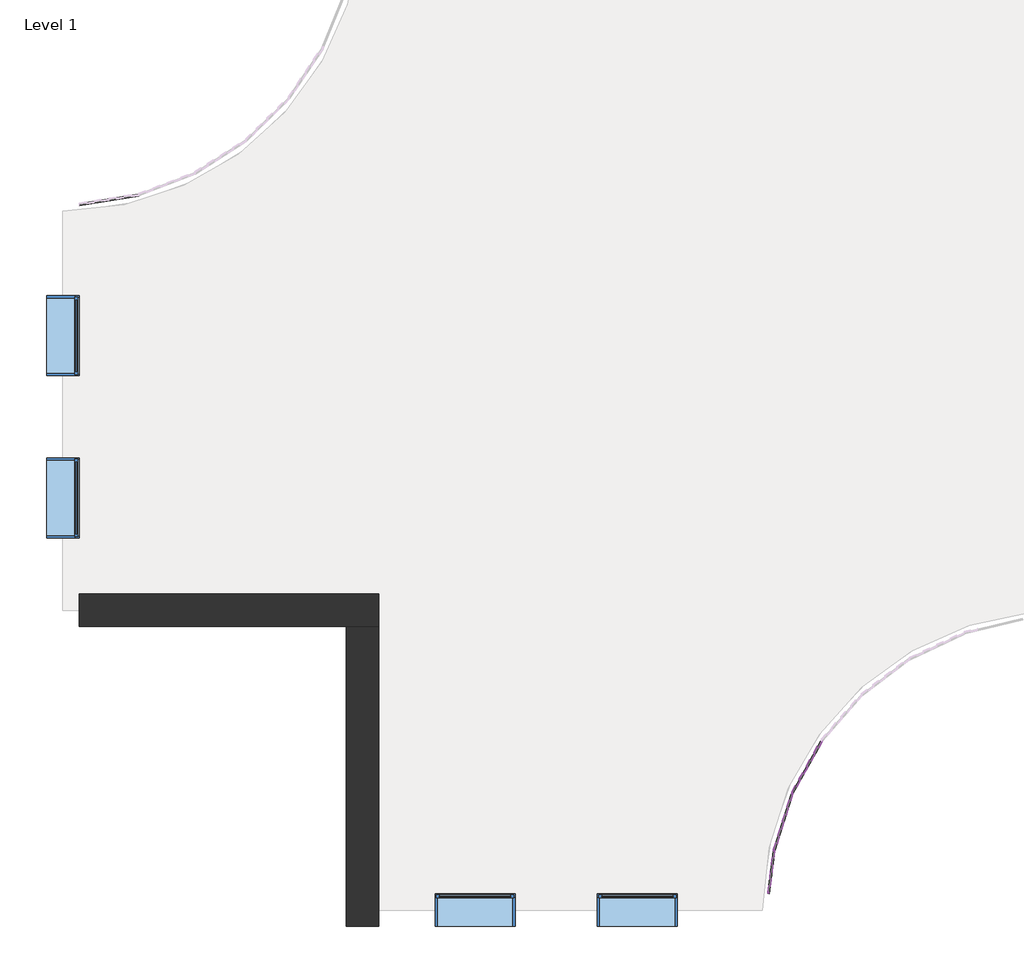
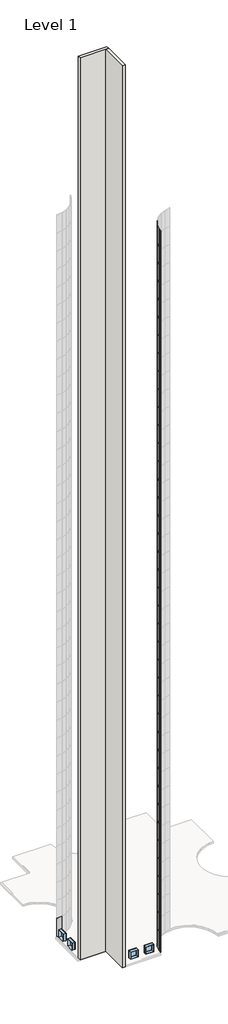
# One storey, part 1 of 19: 121 plates, 4 windows, 2 walls.
"""IFC4 building model written with IfcOpenShell, lengths in millimetres."""

from ifc_helpers import new_model, si_unit, origin, place, context, project, spatial, faceted_brep, transform, mapped, element, save
from components import system_panel_glazed_d77d1ebf, system_panel_glazed_769dbdec, window_d0035ecf, window_d434eb62

model = new_model("IFC4")

# Units and contexts
model_context = context("Model", 3, world=origin())
ifc_project = project(units=[si_unit("LENGTHUNIT", "METRE", prefix="MILLI")], contexts=[model_context])

# Site, building, storey
site = spatial("IfcSite", under=ifc_project)
building = spatial("IfcBuilding", under=site)
storey = spatial("IfcBuildingStorey", under=building, Name="Level 1", Elevation=0.0)

# Plates
placement = place(None, origin())
system_panel_glazed_shape = system_panel_glazed_d77d1ebf(model_context)
element("IfcPlate", 1, ObjectType="System Panel : Glazed", at=placement, inside=storey, context=model_context, shape_type="MappedRepresentation", body=[
    mapped(system_panel_glazed_shape, transform((-341.6843115, -19264.3431106, 0.0), x_axis=(-0.48908047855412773, -0.8722386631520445, 0.0), y_axis=(0.8722386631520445, -0.48908047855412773, 0.0), z_axis=(0.0, 0.0, 1.0))),
])
element("IfcPlate", 2, ObjectType="System Panel : Glazed", at=placement, inside=storey, context=model_context, shape_type="MappedRepresentation", body=[
    mapped(system_panel_glazed_shape, transform((-702.6313416, -20099.2151599, 0.0), x_axis=(-0.30039246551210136, -0.953815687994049, 0.0), y_axis=(0.953815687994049, -0.30039246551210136, 0.0), z_axis=(0.0, 0.0, 1.0))),
])
element("IfcPlate", 3, ObjectType="System Panel : Glazed", at=placement, inside=storey, context=model_context, shape_type="MappedRepresentation", body=[
    mapped(system_panel_glazed_shape, transform((-341.6843115, -19264.3431106, 3048.0), x_axis=(-0.48908047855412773, -0.8722386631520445, 0.0), y_axis=(0.8722386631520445, -0.48908047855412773, 0.0), z_axis=(0.0, 0.0, 1.0))),
])
element("IfcPlate", 4, ObjectType="System Panel : Glazed", at=placement, inside=storey, context=model_context, shape_type="MappedRepresentation", body=[
    mapped(system_panel_glazed_shape, transform((-702.6313416, -20099.2151599, 3048.0), x_axis=(-0.30039246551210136, -0.953815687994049, 0.0), y_axis=(0.953815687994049, -0.30039246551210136, 0.0), z_axis=(0.0, 0.0, 1.0))),
])
element("IfcPlate", 5, ObjectType="System Panel : Glazed", at=placement, inside=storey, context=model_context, shape_type="MappedRepresentation", body=[
    mapped(system_panel_glazed_shape, transform((-341.6843115, -19264.3431106, 6096.0), x_axis=(-0.48908047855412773, -0.8722386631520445, 0.0), y_axis=(0.8722386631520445, -0.48908047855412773, 0.0), z_axis=(0.0, 0.0, 1.0))),
])
element("IfcPlate", 6, ObjectType="System Panel : Glazed", at=placement, inside=storey, context=model_context, shape_type="MappedRepresentation", body=[
    mapped(system_panel_glazed_shape, transform((-702.6313416, -20099.2151599, 6096.0), x_axis=(-0.30039246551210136, -0.953815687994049, 0.0), y_axis=(0.953815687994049, -0.30039246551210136, 0.0), z_axis=(0.0, 0.0, 1.0))),
])
element("IfcPlate", 7, ObjectType="System Panel : Glazed", at=placement, inside=storey, context=model_context, shape_type="MappedRepresentation", body=[
    mapped(system_panel_glazed_shape, transform((-341.6843115, -19264.3431106, 9144.0), x_axis=(-0.48908047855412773, -0.8722386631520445, 0.0), y_axis=(0.8722386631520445, -0.48908047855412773, 0.0), z_axis=(0.0, 0.0, 1.0))),
])
element("IfcPlate", 8, ObjectType="System Panel : Glazed", at=placement, inside=storey, context=model_context, shape_type="MappedRepresentation", body=[
    mapped(system_panel_glazed_shape, transform((-702.6313416, -20099.2151599, 9144.0), x_axis=(-0.30039246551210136, -0.953815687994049, 0.0), y_axis=(0.953815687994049, -0.30039246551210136, 0.0), z_axis=(0.0, 0.0, 1.0))),
])
element("IfcPlate", 9, ObjectType="System Panel : Glazed", at=placement, inside=storey, context=model_context, shape_type="MappedRepresentation", body=[
    mapped(system_panel_glazed_shape, transform((-341.6843115, -19264.3431106, 12192.0), x_axis=(-0.48908047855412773, -0.8722386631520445, 0.0), y_axis=(0.8722386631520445, -0.48908047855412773, 0.0), z_axis=(0.0, 0.0, 1.0))),
])
element("IfcPlate", 10, ObjectType="System Panel : Glazed", at=placement, inside=storey, context=model_context, shape_type="MappedRepresentation", body=[
    mapped(system_panel_glazed_shape, transform((-702.6313416, -20099.2151599, 12192.0), x_axis=(-0.30039246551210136, -0.953815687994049, 0.0), y_axis=(0.953815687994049, -0.30039246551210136, 0.0), z_axis=(0.0, 0.0, 1.0))),
])
element("IfcPlate", 11, ObjectType="System Panel : Glazed", at=placement, inside=storey, context=model_context, shape_type="MappedRepresentation", body=[
    mapped(system_panel_glazed_shape, transform((-341.6843115, -19264.3431106, 15240.0), x_axis=(-0.48908047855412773, -0.8722386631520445, 0.0), y_axis=(0.8722386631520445, -0.48908047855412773, 0.0), z_axis=(0.0, 0.0, 1.0))),
])
element("IfcPlate", 12, ObjectType="System Panel : Glazed", at=placement, inside=storey, context=model_context, shape_type="MappedRepresentation", body=[
    mapped(system_panel_glazed_shape, transform((-702.6313416, -20099.2151599, 15240.0), x_axis=(-0.30039246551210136, -0.953815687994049, 0.0), y_axis=(0.953815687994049, -0.30039246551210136, 0.0), z_axis=(0.0, 0.0, 1.0))),
])
element("IfcPlate", 13, ObjectType="System Panel : Glazed", at=placement, inside=storey, context=model_context, shape_type="MappedRepresentation", body=[
    mapped(system_panel_glazed_shape, transform((-341.6843115, -19264.3431106, 18288.0), x_axis=(-0.48908047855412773, -0.8722386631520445, 0.0), y_axis=(0.8722386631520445, -0.48908047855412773, 0.0), z_axis=(0.0, 0.0, 1.0))),
])
element("IfcPlate", 14, ObjectType="System Panel : Glazed", at=placement, inside=storey, context=model_context, shape_type="MappedRepresentation", body=[
    mapped(system_panel_glazed_shape, transform((-702.6313416, -20099.2151599, 18288.0), x_axis=(-0.30039246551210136, -0.953815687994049, 0.0), y_axis=(0.953815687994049, -0.30039246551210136, 0.0), z_axis=(0.0, 0.0, 1.0))),
])
element("IfcPlate", 15, ObjectType="System Panel : Glazed", at=placement, inside=storey, context=model_context, shape_type="MappedRepresentation", body=[
    mapped(system_panel_glazed_shape, transform((-341.6843115, -19264.3431106, 21336.0), x_axis=(-0.48908047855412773, -0.8722386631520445, 0.0), y_axis=(0.8722386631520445, -0.48908047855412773, 0.0), z_axis=(0.0, 0.0, 1.0))),
])
element("IfcPlate", 16, ObjectType="System Panel : Glazed", at=placement, inside=storey, context=model_context, shape_type="MappedRepresentation", body=[
    mapped(system_panel_glazed_shape, transform((-702.6313416, -20099.2151599, 21336.0), x_axis=(-0.30039246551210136, -0.953815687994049, 0.0), y_axis=(0.953815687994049, -0.30039246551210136, 0.0), z_axis=(0.0, 0.0, 1.0))),
])
element("IfcPlate", 17, ObjectType="System Panel : Glazed", at=placement, inside=storey, context=model_context, shape_type="MappedRepresentation", body=[
    mapped(system_panel_glazed_shape, transform((-341.6843115, -19264.3431106, 24384.0), x_axis=(-0.48908047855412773, -0.8722386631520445, 0.0), y_axis=(0.8722386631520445, -0.48908047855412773, 0.0), z_axis=(0.0, 0.0, 1.0))),
])
element("IfcPlate", 18, ObjectType="System Panel : Glazed", at=placement, inside=storey, context=model_context, shape_type="MappedRepresentation", body=[
    mapped(system_panel_glazed_shape, transform((-702.6313416, -20099.2151599, 24384.0), x_axis=(-0.30039246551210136, -0.953815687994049, 0.0), y_axis=(0.953815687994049, -0.30039246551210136, 0.0), z_axis=(0.0, 0.0, 1.0))),
])
element("IfcPlate", 19, ObjectType="System Panel : Glazed", at=placement, inside=storey, context=model_context, shape_type="MappedRepresentation", body=[
    mapped(system_panel_glazed_shape, transform((-341.6843115, -19264.3431106, 27432.0), x_axis=(-0.48908047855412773, -0.8722386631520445, 0.0), y_axis=(0.8722386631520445, -0.48908047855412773, 0.0), z_axis=(0.0, 0.0, 1.0))),
])
element("IfcPlate", 20, ObjectType="System Panel : Glazed", at=placement, inside=storey, context=model_context, shape_type="MappedRepresentation", body=[
    mapped(system_panel_glazed_shape, transform((-702.6313416, -20099.2151599, 27432.0), x_axis=(-0.30039246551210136, -0.953815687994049, 0.0), y_axis=(0.953815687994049, -0.30039246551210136, 0.0), z_axis=(0.0, 0.0, 1.0))),
])
element("IfcPlate", 21, ObjectType="System Panel : Glazed", at=placement, inside=storey, context=model_context, shape_type="MappedRepresentation", body=[
    mapped(system_panel_glazed_shape, transform((-341.6843115, -19264.3431106, 30480.0), x_axis=(-0.48908047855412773, -0.8722386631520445, 0.0), y_axis=(0.8722386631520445, -0.48908047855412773, 0.0), z_axis=(0.0, 0.0, 1.0))),
])
element("IfcPlate", 22, ObjectType="System Panel : Glazed", at=placement, inside=storey, context=model_context, shape_type="MappedRepresentation", body=[
    mapped(system_panel_glazed_shape, transform((-702.6313416, -20099.2151599, 30480.0), x_axis=(-0.30039246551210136, -0.953815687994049, 0.0), y_axis=(0.953815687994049, -0.30039246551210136, 0.0), z_axis=(0.0, 0.0, 1.0))),
])
element("IfcPlate", 23, ObjectType="System Panel : Glazed", at=placement, inside=storey, context=model_context, shape_type="MappedRepresentation", body=[
    mapped(system_panel_glazed_shape, transform((-341.6843115, -19264.3431106, 33528.0), x_axis=(-0.48908047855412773, -0.8722386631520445, 0.0), y_axis=(0.8722386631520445, -0.48908047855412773, 0.0), z_axis=(0.0, 0.0, 1.0))),
])
element("IfcPlate", 24, ObjectType="System Panel : Glazed", at=placement, inside=storey, context=model_context, shape_type="MappedRepresentation", body=[
    mapped(system_panel_glazed_shape, transform((-702.6313416, -20099.2151599, 33528.0), x_axis=(-0.30039246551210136, -0.953815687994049, 0.0), y_axis=(0.953815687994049, -0.30039246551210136, 0.0), z_axis=(0.0, 0.0, 1.0))),
])
element("IfcPlate", 25, ObjectType="System Panel : Glazed", at=placement, inside=storey, context=model_context, shape_type="MappedRepresentation", body=[
    mapped(system_panel_glazed_shape, transform((-341.6843115, -19264.3431106, 36576.0), x_axis=(-0.48908047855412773, -0.8722386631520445, 0.0), y_axis=(0.8722386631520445, -0.48908047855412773, 0.0), z_axis=(0.0, 0.0, 1.0))),
])
element("IfcPlate", 26, ObjectType="System Panel : Glazed", at=placement, inside=storey, context=model_context, shape_type="MappedRepresentation", body=[
    mapped(system_panel_glazed_shape, transform((-702.6313416, -20099.2151599, 36576.0), x_axis=(-0.30039246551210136, -0.953815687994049, 0.0), y_axis=(0.953815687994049, -0.30039246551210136, 0.0), z_axis=(0.0, 0.0, 1.0))),
])
element("IfcPlate", 27, ObjectType="System Panel : Glazed", at=placement, inside=storey, context=model_context, shape_type="MappedRepresentation", body=[
    mapped(system_panel_glazed_shape, transform((-341.6843115, -19264.3431106, 39624.0), x_axis=(-0.48908047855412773, -0.8722386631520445, 0.0), y_axis=(0.8722386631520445, -0.48908047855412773, 0.0), z_axis=(0.0, 0.0, 1.0))),
])
element("IfcPlate", 28, ObjectType="System Panel : Glazed", at=placement, inside=storey, context=model_context, shape_type="MappedRepresentation", body=[
    mapped(system_panel_glazed_shape, transform((-702.6313416, -20099.2151599, 39624.0), x_axis=(-0.30039246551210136, -0.953815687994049, 0.0), y_axis=(0.953815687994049, -0.30039246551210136, 0.0), z_axis=(0.0, 0.0, 1.0))),
])
element("IfcPlate", 29, ObjectType="System Panel : Glazed", at=placement, inside=storey, context=model_context, shape_type="MappedRepresentation", body=[
    mapped(system_panel_glazed_shape, transform((-341.6843115, -19264.3431106, 42672.0), x_axis=(-0.48908047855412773, -0.8722386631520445, 0.0), y_axis=(0.8722386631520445, -0.48908047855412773, 0.0), z_axis=(0.0, 0.0, 1.0))),
])
element("IfcPlate", 30, ObjectType="System Panel : Glazed", at=placement, inside=storey, context=model_context, shape_type="MappedRepresentation", body=[
    mapped(system_panel_glazed_shape, transform((-702.6313416, -20099.2151599, 42672.0), x_axis=(-0.30039246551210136, -0.953815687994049, 0.0), y_axis=(0.953815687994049, -0.30039246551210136, 0.0), z_axis=(0.0, 0.0, 1.0))),
])
element("IfcPlate", 31, ObjectType="System Panel : Glazed", at=placement, inside=storey, context=model_context, shape_type="MappedRepresentation", body=[
    mapped(system_panel_glazed_shape, transform((-341.6843115, -19264.3431106, 45720.0), x_axis=(-0.48908047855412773, -0.8722386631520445, 0.0), y_axis=(0.8722386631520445, -0.48908047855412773, 0.0), z_axis=(0.0, 0.0, 1.0))),
])
element("IfcPlate", 32, ObjectType="System Panel : Glazed", at=placement, inside=storey, context=model_context, shape_type="MappedRepresentation", body=[
    mapped(system_panel_glazed_shape, transform((-702.6313416, -20099.2151599, 45720.0), x_axis=(-0.30039246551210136, -0.953815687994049, 0.0), y_axis=(0.953815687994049, -0.30039246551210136, 0.0), z_axis=(0.0, 0.0, 1.0))),
])
element("IfcPlate", 33, ObjectType="System Panel : Glazed", at=placement, inside=storey, context=model_context, shape_type="MappedRepresentation", body=[
    mapped(system_panel_glazed_shape, transform((-341.6843115, -19264.3431106, 48768.0), x_axis=(-0.48908047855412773, -0.8722386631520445, 0.0), y_axis=(0.8722386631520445, -0.48908047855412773, 0.0), z_axis=(0.0, 0.0, 1.0))),
])
element("IfcPlate", 34, ObjectType="System Panel : Glazed", at=placement, inside=storey, context=model_context, shape_type="MappedRepresentation", body=[
    mapped(system_panel_glazed_shape, transform((-702.6313416, -20099.2151599, 48768.0), x_axis=(-0.30039246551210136, -0.953815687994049, 0.0), y_axis=(0.953815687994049, -0.30039246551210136, 0.0), z_axis=(0.0, 0.0, 1.0))),
])
element("IfcPlate", 35, ObjectType="System Panel : Glazed", at=placement, inside=storey, context=model_context, shape_type="MappedRepresentation", body=[
    mapped(system_panel_glazed_shape, transform((-341.6843115, -19264.3431106, 51816.0), x_axis=(-0.48908047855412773, -0.8722386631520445, 0.0), y_axis=(0.8722386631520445, -0.48908047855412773, 0.0), z_axis=(0.0, 0.0, 1.0))),
])
element("IfcPlate", 36, ObjectType="System Panel : Glazed", at=placement, inside=storey, context=model_context, shape_type="MappedRepresentation", body=[
    mapped(system_panel_glazed_shape, transform((-702.6313416, -20099.2151599, 51816.0), x_axis=(-0.30039246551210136, -0.953815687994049, 0.0), y_axis=(0.953815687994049, -0.30039246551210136, 0.0), z_axis=(0.0, 0.0, 1.0))),
])
element("IfcPlate", 37, ObjectType="System Panel : Glazed", at=placement, inside=storey, context=model_context, shape_type="MappedRepresentation", body=[
    mapped(system_panel_glazed_shape, transform((-341.6843115, -19264.3431106, 54864.0), x_axis=(-0.48908047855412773, -0.8722386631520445, 0.0), y_axis=(0.8722386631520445, -0.48908047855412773, 0.0), z_axis=(0.0, 0.0, 1.0))),
])
element("IfcPlate", 38, ObjectType="System Panel : Glazed", at=placement, inside=storey, context=model_context, shape_type="MappedRepresentation", body=[
    mapped(system_panel_glazed_shape, transform((-702.6313416, -20099.2151599, 54864.0), x_axis=(-0.30039246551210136, -0.953815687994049, 0.0), y_axis=(0.953815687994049, -0.30039246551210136, 0.0), z_axis=(0.0, 0.0, 1.0))),
])
element("IfcPlate", 39, ObjectType="System Panel : Glazed", at=placement, inside=storey, context=model_context, shape_type="MappedRepresentation", body=[
    mapped(system_panel_glazed_shape, transform((-341.6843115, -19264.3431106, 57912.0), x_axis=(-0.48908047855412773, -0.8722386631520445, 0.0), y_axis=(0.8722386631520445, -0.48908047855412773, 0.0), z_axis=(0.0, 0.0, 1.0))),
])
element("IfcPlate", 40, ObjectType="System Panel : Glazed", at=placement, inside=storey, context=model_context, shape_type="MappedRepresentation", body=[
    mapped(system_panel_glazed_shape, transform((-702.6313416, -20099.2151599, 57912.0), x_axis=(-0.30039246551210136, -0.953815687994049, 0.0), y_axis=(0.953815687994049, -0.30039246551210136, 0.0), z_axis=(0.0, 0.0, 1.0))),
])
element("IfcPlate", 41, ObjectType="System Panel : Glazed", at=placement, inside=storey, context=model_context, shape_type="MappedRepresentation", body=[
    mapped(system_panel_glazed_shape, transform((-341.6843115, -19264.3431106, 60960.0), x_axis=(-0.48908047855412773, -0.8722386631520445, 0.0), y_axis=(0.8722386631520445, -0.48908047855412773, 0.0), z_axis=(0.0, 0.0, 1.0))),
])
element("IfcPlate", 42, ObjectType="System Panel : Glazed", at=placement, inside=storey, context=model_context, shape_type="MappedRepresentation", body=[
    mapped(system_panel_glazed_shape, transform((-702.6313416, -20099.2151599, 60960.0), x_axis=(-0.30039246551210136, -0.953815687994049, 0.0), y_axis=(0.953815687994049, -0.30039246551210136, 0.0), z_axis=(0.0, 0.0, 1.0))),
])
element("IfcPlate", 43, ObjectType="System Panel : Glazed", at=placement, inside=storey, context=model_context, shape_type="MappedRepresentation", body=[
    mapped(system_panel_glazed_shape, transform((-341.6843115, -19264.3431106, 64008.0), x_axis=(-0.48908047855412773, -0.8722386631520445, 0.0), y_axis=(0.8722386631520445, -0.48908047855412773, 0.0), z_axis=(0.0, 0.0, 1.0))),
])
element("IfcPlate", 44, ObjectType="System Panel : Glazed", at=placement, inside=storey, context=model_context, shape_type="MappedRepresentation", body=[
    mapped(system_panel_glazed_shape, transform((-702.6313416, -20099.2151599, 64008.0), x_axis=(-0.30039246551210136, -0.953815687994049, 0.0), y_axis=(0.953815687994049, -0.30039246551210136, 0.0), z_axis=(0.0, 0.0, 1.0))),
])
element("IfcPlate", 45, ObjectType="System Panel : Glazed", at=placement, inside=storey, context=model_context, shape_type="MappedRepresentation", body=[
    mapped(system_panel_glazed_shape, transform((-341.6843115, -19264.3431106, 67056.0), x_axis=(-0.48908047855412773, -0.8722386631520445, 0.0), y_axis=(0.8722386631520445, -0.48908047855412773, 0.0), z_axis=(0.0, 0.0, 1.0))),
])
element("IfcPlate", 46, ObjectType="System Panel : Glazed", at=placement, inside=storey, context=model_context, shape_type="MappedRepresentation", body=[
    mapped(system_panel_glazed_shape, transform((-702.6313416, -20099.2151599, 67056.0), x_axis=(-0.30039246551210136, -0.953815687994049, 0.0), y_axis=(0.953815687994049, -0.30039246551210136, 0.0), z_axis=(0.0, 0.0, 1.0))),
])
element("IfcPlate", 47, ObjectType="System Panel : Glazed", at=placement, inside=storey, context=model_context, shape_type="MappedRepresentation", body=[
    mapped(system_panel_glazed_shape, transform((-341.6843115, -19264.3431106, 70104.0), x_axis=(-0.48908047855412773, -0.8722386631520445, 0.0), y_axis=(0.8722386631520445, -0.48908047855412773, 0.0), z_axis=(0.0, 0.0, 1.0))),
])
element("IfcPlate", 48, ObjectType="System Panel : Glazed", at=placement, inside=storey, context=model_context, shape_type="MappedRepresentation", body=[
    mapped(system_panel_glazed_shape, transform((-702.6313416, -20099.2151599, 70104.0), x_axis=(-0.30039246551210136, -0.953815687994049, 0.0), y_axis=(0.953815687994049, -0.30039246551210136, 0.0), z_axis=(0.0, 0.0, 1.0))),
])
element("IfcPlate", 49, ObjectType="System Panel : Glazed", at=placement, inside=storey, context=model_context, shape_type="MappedRepresentation", body=[
    mapped(system_panel_glazed_shape, transform((-341.6843115, -19264.3431106, 73152.0), x_axis=(-0.48908047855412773, -0.8722386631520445, 0.0), y_axis=(0.8722386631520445, -0.48908047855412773, 0.0), z_axis=(0.0, 0.0, 1.0))),
])
element("IfcPlate", 50, ObjectType="System Panel : Glazed", at=placement, inside=storey, context=model_context, shape_type="MappedRepresentation", body=[
    mapped(system_panel_glazed_shape, transform((-702.6313416, -20099.2151599, 73152.0), x_axis=(-0.30039246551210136, -0.953815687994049, 0.0), y_axis=(0.953815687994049, -0.30039246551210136, 0.0), z_axis=(0.0, 0.0, 1.0))),
])
element("IfcPlate", 51, ObjectType="System Panel : Glazed", at=placement, inside=storey, context=model_context, shape_type="MappedRepresentation", body=[
    mapped(system_panel_glazed_shape, transform((-341.6843115, -19264.3431106, 76200.0), x_axis=(-0.48908047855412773, -0.8722386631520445, 0.0), y_axis=(0.8722386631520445, -0.48908047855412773, 0.0), z_axis=(0.0, 0.0, 1.0))),
])
element("IfcPlate", 52, ObjectType="System Panel : Glazed", at=placement, inside=storey, context=model_context, shape_type="MappedRepresentation", body=[
    mapped(system_panel_glazed_shape, transform((-702.6313416, -20099.2151599, 76200.0), x_axis=(-0.30039246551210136, -0.953815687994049, 0.0), y_axis=(0.953815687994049, -0.30039246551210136, 0.0), z_axis=(0.0, 0.0, 1.0))),
])
element("IfcPlate", 53, ObjectType="System Panel : Glazed", at=placement, inside=storey, context=model_context, shape_type="MappedRepresentation", body=[
    mapped(system_panel_glazed_shape, transform((-341.6843115, -19264.3431106, 79248.0), x_axis=(-0.48908047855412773, -0.8722386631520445, 0.0), y_axis=(0.8722386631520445, -0.48908047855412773, 0.0), z_axis=(0.0, 0.0, 1.0))),
])
element("IfcPlate", 54, ObjectType="System Panel : Glazed", at=placement, inside=storey, context=model_context, shape_type="MappedRepresentation", body=[
    mapped(system_panel_glazed_shape, transform((-702.6313416, -20099.2151599, 79248.0), x_axis=(-0.30039246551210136, -0.953815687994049, 0.0), y_axis=(0.953815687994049, -0.30039246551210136, 0.0), z_axis=(0.0, 0.0, 1.0))),
])
element("IfcPlate", 55, ObjectType="System Panel : Glazed", at=placement, inside=storey, context=model_context, shape_type="MappedRepresentation", body=[
    mapped(system_panel_glazed_shape, transform((-341.6843115, -19264.3431106, 82296.0), x_axis=(-0.48908047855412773, -0.8722386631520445, 0.0), y_axis=(0.8722386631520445, -0.48908047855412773, 0.0), z_axis=(0.0, 0.0, 1.0))),
])
element("IfcPlate", 56, ObjectType="System Panel : Glazed", at=placement, inside=storey, context=model_context, shape_type="MappedRepresentation", body=[
    mapped(system_panel_glazed_shape, transform((-702.6313416, -20099.2151599, 82296.0), x_axis=(-0.30039246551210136, -0.953815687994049, 0.0), y_axis=(0.953815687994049, -0.30039246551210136, 0.0), z_axis=(0.0, 0.0, 1.0))),
])
element("IfcPlate", 57, ObjectType="System Panel : Glazed", at=placement, inside=storey, context=model_context, shape_type="MappedRepresentation", body=[
    mapped(system_panel_glazed_shape, transform((-341.6843115, -19264.3431106, 85344.0), x_axis=(-0.48908047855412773, -0.8722386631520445, 0.0), y_axis=(0.8722386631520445, -0.48908047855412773, 0.0), z_axis=(0.0, 0.0, 1.0))),
])
element("IfcPlate", 58, ObjectType="System Panel : Glazed", at=placement, inside=storey, context=model_context, shape_type="MappedRepresentation", body=[
    mapped(system_panel_glazed_shape, transform((-702.6313416, -20099.2151599, 85344.0), x_axis=(-0.30039246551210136, -0.953815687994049, 0.0), y_axis=(0.953815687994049, -0.30039246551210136, 0.0), z_axis=(0.0, 0.0, 1.0))),
])
element("IfcPlate", 59, ObjectType="System Panel : Glazed", at=placement, inside=storey, context=model_context, shape_type="MappedRepresentation", body=[
    mapped(system_panel_glazed_shape, transform((-341.6843115, -19264.3431106, 88392.0), x_axis=(-0.48908047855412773, -0.8722386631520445, 0.0), y_axis=(0.8722386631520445, -0.48908047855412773, 0.0), z_axis=(0.0, 0.0, 1.0))),
])
element("IfcPlate", 60, ObjectType="System Panel : Glazed", at=placement, inside=storey, context=model_context, shape_type="MappedRepresentation", body=[
    mapped(system_panel_glazed_shape, transform((-702.6313416, -20099.2151599, 88392.0), x_axis=(-0.30039246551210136, -0.953815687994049, 0.0), y_axis=(0.953815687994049, -0.30039246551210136, 0.0), z_axis=(0.0, 0.0, 1.0))),
])
element("IfcPlate", 61, ObjectType="System Panel : Glazed", at=placement, inside=storey, context=model_context, shape_type="MappedRepresentation", body=[
    mapped(system_panel_glazed_shape, transform((-341.6843115, -19264.3431106, 91440.0), x_axis=(-0.48908047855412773, -0.8722386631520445, 0.0), y_axis=(0.8722386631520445, -0.48908047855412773, 0.0), z_axis=(0.0, 0.0, 1.0))),
])
element("IfcPlate", 62, ObjectType="System Panel : Glazed", at=placement, inside=storey, context=model_context, shape_type="MappedRepresentation", body=[
    mapped(system_panel_glazed_shape, transform((-702.6313416, -20099.2151599, 91440.0), x_axis=(-0.30039246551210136, -0.953815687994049, 0.0), y_axis=(0.953815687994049, -0.30039246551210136, 0.0), z_axis=(0.0, 0.0, 1.0))),
])
element("IfcPlate", 63, ObjectType="System Panel : Glazed", at=placement, inside=storey, context=model_context, shape_type="MappedRepresentation", body=[
    mapped(system_panel_glazed_shape, transform((-341.6843115, -19264.3431106, 94488.0), x_axis=(-0.48908047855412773, -0.8722386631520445, 0.0), y_axis=(0.8722386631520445, -0.48908047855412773, 0.0), z_axis=(0.0, 0.0, 1.0))),
])
element("IfcPlate", 64, ObjectType="System Panel : Glazed", at=placement, inside=storey, context=model_context, shape_type="MappedRepresentation", body=[
    mapped(system_panel_glazed_shape, transform((-702.6313416, -20099.2151599, 94488.0), x_axis=(-0.30039246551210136, -0.953815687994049, 0.0), y_axis=(0.953815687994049, -0.30039246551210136, 0.0), z_axis=(0.0, 0.0, 1.0))),
])
element("IfcPlate", 65, ObjectType="System Panel : Glazed", at=placement, inside=storey, context=model_context, shape_type="MappedRepresentation", body=[
    mapped(system_panel_glazed_shape, transform((-341.6843115, -19264.3431106, 97536.0), x_axis=(-0.48908047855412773, -0.8722386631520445, 0.0), y_axis=(0.8722386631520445, -0.48908047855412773, 0.0), z_axis=(0.0, 0.0, 1.0))),
])
element("IfcPlate", 66, ObjectType="System Panel : Glazed", at=placement, inside=storey, context=model_context, shape_type="MappedRepresentation", body=[
    mapped(system_panel_glazed_shape, transform((-702.6313416, -20099.2151599, 97536.0), x_axis=(-0.30039246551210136, -0.953815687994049, 0.0), y_axis=(0.953815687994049, -0.30039246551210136, 0.0), z_axis=(0.0, 0.0, 1.0))),
])
element("IfcPlate", 67, ObjectType="System Panel : Glazed", at=placement, inside=storey, context=model_context, shape_type="MappedRepresentation", body=[
    mapped(system_panel_glazed_shape, transform((-341.6843115, -19264.3431106, 100584.0), x_axis=(-0.48908047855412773, -0.8722386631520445, 0.0), y_axis=(0.8722386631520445, -0.48908047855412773, 0.0), z_axis=(0.0, 0.0, 1.0))),
])
element("IfcPlate", 68, ObjectType="System Panel : Glazed", at=placement, inside=storey, context=model_context, shape_type="MappedRepresentation", body=[
    mapped(system_panel_glazed_shape, transform((-702.6313416, -20099.2151599, 100584.0), x_axis=(-0.30039246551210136, -0.953815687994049, 0.0), y_axis=(0.953815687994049, -0.30039246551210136, 0.0), z_axis=(0.0, 0.0, 1.0))),
])
element("IfcPlate", 69, ObjectType="System Panel : Glazed", at=placement, inside=storey, context=model_context, shape_type="MappedRepresentation", body=[
    mapped(system_panel_glazed_shape, transform((-11020.1328323, -10556.8719816, 0.0), x_axis=(0.987325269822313, 0.15870983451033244, 0.0), y_axis=(-0.15870983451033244, 0.987325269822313, 0.0), z_axis=(0.0, 0.0, 1.0))),
])
element("IfcPlate", 70, ObjectType="System Panel : Glazed", at=placement, inside=storey, context=model_context, shape_type="MappedRepresentation", body=[
    mapped(system_panel_glazed_shape, transform((-341.6843115, -19264.3431106, 103632.0), x_axis=(-0.48908047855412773, -0.8722386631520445, 0.0), y_axis=(0.8722386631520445, -0.48908047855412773, 0.0), z_axis=(0.0, 0.0, 1.0))),
])
element("IfcPlate", 71, ObjectType="System Panel : Glazed", at=placement, inside=storey, context=model_context, shape_type="MappedRepresentation", body=[
    mapped(system_panel_glazed_shape, transform((-702.6313416, -20099.2151599, 103632.0), x_axis=(-0.30039246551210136, -0.953815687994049, 0.0), y_axis=(0.953815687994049, -0.30039246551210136, 0.0), z_axis=(0.0, 0.0, 1.0))),
])
element("IfcPlate", 72, ObjectType="System Panel : Glazed", at=placement, inside=storey, context=model_context, shape_type="MappedRepresentation", body=[
    mapped(system_panel_glazed_shape, transform((-341.6843115, -19264.3431106, 106680.0), x_axis=(-0.48908047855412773, -0.8722386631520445, 0.0), y_axis=(0.8722386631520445, -0.48908047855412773, 0.0), z_axis=(0.0, 0.0, 1.0))),
])
element("IfcPlate", 73, ObjectType="System Panel : Glazed", at=placement, inside=storey, context=model_context, shape_type="MappedRepresentation", body=[
    mapped(system_panel_glazed_shape, transform((-702.6313416, -20099.2151599, 106680.0), x_axis=(-0.30039246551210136, -0.953815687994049, 0.0), y_axis=(0.953815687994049, -0.30039246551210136, 0.0), z_axis=(0.0, 0.0, 1.0))),
])
element("IfcPlate", 74, ObjectType="System Panel : Glazed", at=placement, inside=storey, context=model_context, shape_type="MappedRepresentation", body=[
    mapped(system_panel_glazed_shape, transform((-341.6843115, -19264.3431106, 109728.0), x_axis=(-0.48908047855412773, -0.8722386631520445, 0.0), y_axis=(0.8722386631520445, -0.48908047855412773, 0.0), z_axis=(0.0, 0.0, 1.0))),
])
element("IfcPlate", 75, ObjectType="System Panel : Glazed", at=placement, inside=storey, context=model_context, shape_type="MappedRepresentation", body=[
    mapped(system_panel_glazed_shape, transform((-702.6313416, -20099.2151599, 109728.0), x_axis=(-0.30039246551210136, -0.953815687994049, 0.0), y_axis=(0.953815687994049, -0.30039246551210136, 0.0), z_axis=(0.0, 0.0, 1.0))),
])
element("IfcPlate", 76, ObjectType="System Panel : Glazed", at=placement, inside=storey, context=model_context, shape_type="MappedRepresentation", body=[
    mapped(system_panel_glazed_shape, transform((-341.6843115, -19264.3431106, 112776.0), x_axis=(-0.48908047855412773, -0.8722386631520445, 0.0), y_axis=(0.8722386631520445, -0.48908047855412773, 0.0), z_axis=(0.0, 0.0, 1.0))),
])
element("IfcPlate", 77, ObjectType="System Panel : Glazed", at=placement, inside=storey, context=model_context, shape_type="MappedRepresentation", body=[
    mapped(system_panel_glazed_shape, transform((-702.6313416, -20099.2151599, 112776.0), x_axis=(-0.30039246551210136, -0.953815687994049, 0.0), y_axis=(0.953815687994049, -0.30039246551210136, 0.0), z_axis=(0.0, 0.0, 1.0))),
])
element("IfcPlate", 78, ObjectType="System Panel : Glazed", at=placement, inside=storey, context=model_context, shape_type="MappedRepresentation", body=[
    mapped(system_panel_glazed_shape, transform((-341.6843115, -19264.3431106, 115824.0), x_axis=(-0.48908047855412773, -0.8722386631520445, 0.0), y_axis=(0.8722386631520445, -0.48908047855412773, 0.0), z_axis=(0.0, 0.0, 1.0))),
])
element("IfcPlate", 79, ObjectType="System Panel : Glazed", at=placement, inside=storey, context=model_context, shape_type="MappedRepresentation", body=[
    mapped(system_panel_glazed_shape, transform((-702.6313416, -20099.2151599, 115824.0), x_axis=(-0.30039246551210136, -0.953815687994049, 0.0), y_axis=(0.953815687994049, -0.30039246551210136, 0.0), z_axis=(0.0, 0.0, 1.0))),
])
element("IfcPlate", 80, ObjectType="System Panel : Glazed", at=placement, inside=storey, context=model_context, shape_type="MappedRepresentation", body=[
    mapped(system_panel_glazed_shape, transform((-341.6843115, -19264.3431106, 118872.0), x_axis=(-0.48908047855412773, -0.8722386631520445, 0.0), y_axis=(0.8722386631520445, -0.48908047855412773, 0.0), z_axis=(0.0, 0.0, 1.0))),
])
element("IfcPlate", 81, ObjectType="System Panel : Glazed", at=placement, inside=storey, context=model_context, shape_type="MappedRepresentation", body=[
    mapped(system_panel_glazed_shape, transform((-702.6313416, -20099.2151599, 118872.0), x_axis=(-0.30039246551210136, -0.953815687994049, 0.0), y_axis=(0.953815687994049, -0.30039246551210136, 0.0), z_axis=(0.0, 0.0, 1.0))),
])
system_panel_glazed_2_shape = system_panel_glazed_769dbdec(model_context)
element("IfcPlate", 82, ObjectType="System Panel : Glazed", at=placement, inside=storey, context=model_context, shape_type="MappedRepresentation", body=[
    mapped(system_panel_glazed_2_shape, transform((-881.7156475, -20856.4056189, 0.0), x_axis=(-0.12891857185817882, -0.99165518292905, 0.0), y_axis=(0.99165518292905, -0.12891857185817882, 0.0), z_axis=(0.0, 0.0, 1.0))),
])
element("IfcPlate", 83, ObjectType="System Panel : Glazed", at=placement, inside=storey, context=model_context, shape_type="MappedRepresentation", body=[
    mapped(system_panel_glazed_2_shape, transform((-881.7156475, -20856.4056189, 3048.0), x_axis=(-0.12891857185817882, -0.99165518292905, 0.0), y_axis=(0.99165518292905, -0.12891857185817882, 0.0), z_axis=(0.0, 0.0, 1.0))),
])
element("IfcPlate", 84, ObjectType="System Panel : Glazed", at=placement, inside=storey, context=model_context, shape_type="MappedRepresentation", body=[
    mapped(system_panel_glazed_2_shape, transform((-881.7156475, -20856.4056189, 6096.0), x_axis=(-0.12891857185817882, -0.99165518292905, 0.0), y_axis=(0.99165518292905, -0.12891857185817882, 0.0), z_axis=(0.0, 0.0, 1.0))),
])
element("IfcPlate", 85, ObjectType="System Panel : Glazed", at=placement, inside=storey, context=model_context, shape_type="MappedRepresentation", body=[
    mapped(system_panel_glazed_2_shape, transform((-881.7156475, -20856.4056189, 9144.0), x_axis=(-0.12891857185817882, -0.99165518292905, 0.0), y_axis=(0.99165518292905, -0.12891857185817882, 0.0), z_axis=(0.0, 0.0, 1.0))),
])
element("IfcPlate", 86, ObjectType="System Panel : Glazed", at=placement, inside=storey, context=model_context, shape_type="MappedRepresentation", body=[
    mapped(system_panel_glazed_2_shape, transform((-881.7156475, -20856.4056189, 12192.0), x_axis=(-0.12891857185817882, -0.99165518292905, 0.0), y_axis=(0.99165518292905, -0.12891857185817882, 0.0), z_axis=(0.0, 0.0, 1.0))),
])
element("IfcPlate", 87, ObjectType="System Panel : Glazed", at=placement, inside=storey, context=model_context, shape_type="MappedRepresentation", body=[
    mapped(system_panel_glazed_2_shape, transform((-881.7156475, -20856.4056189, 15240.0), x_axis=(-0.12891857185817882, -0.99165518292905, 0.0), y_axis=(0.99165518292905, -0.12891857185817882, 0.0), z_axis=(0.0, 0.0, 1.0))),
])
element("IfcPlate", 88, ObjectType="System Panel : Glazed", at=placement, inside=storey, context=model_context, shape_type="MappedRepresentation", body=[
    mapped(system_panel_glazed_2_shape, transform((-881.7156475, -20856.4056189, 18288.0), x_axis=(-0.1289185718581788, -0.99165518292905, 0.0), y_axis=(0.99165518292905, -0.1289185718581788, 0.0), z_axis=(0.0, 0.0, 1.0))),
])
element("IfcPlate", 89, ObjectType="System Panel : Glazed", at=placement, inside=storey, context=model_context, shape_type="MappedRepresentation", body=[
    mapped(system_panel_glazed_2_shape, transform((-881.7156475, -20856.4056189, 21336.0), x_axis=(-0.12891857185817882, -0.99165518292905, 0.0), y_axis=(0.99165518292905, -0.12891857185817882, 0.0), z_axis=(0.0, 0.0, 1.0))),
])
element("IfcPlate", 90, ObjectType="System Panel : Glazed", at=placement, inside=storey, context=model_context, shape_type="MappedRepresentation", body=[
    mapped(system_panel_glazed_2_shape, transform((-881.7156475, -20856.4056189, 24384.0), x_axis=(-0.12891857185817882, -0.99165518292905, 0.0), y_axis=(0.99165518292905, -0.12891857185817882, 0.0), z_axis=(0.0, 0.0, 1.0))),
])
element("IfcPlate", 91, ObjectType="System Panel : Glazed", at=placement, inside=storey, context=model_context, shape_type="MappedRepresentation", body=[
    mapped(system_panel_glazed_2_shape, transform((-881.7156475, -20856.4056189, 27432.0), x_axis=(-0.12891857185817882, -0.99165518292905, 0.0), y_axis=(0.99165518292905, -0.12891857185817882, 0.0), z_axis=(0.0, 0.0, 1.0))),
])
element("IfcPlate", 92, ObjectType="System Panel : Glazed", at=placement, inside=storey, context=model_context, shape_type="MappedRepresentation", body=[
    mapped(system_panel_glazed_2_shape, transform((-881.7156475, -20856.4056189, 30480.0), x_axis=(-0.12891857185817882, -0.99165518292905, 0.0), y_axis=(0.99165518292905, -0.12891857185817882, 0.0), z_axis=(0.0, 0.0, 1.0))),
])
element("IfcPlate", 93, ObjectType="System Panel : Glazed", at=placement, inside=storey, context=model_context, shape_type="MappedRepresentation", body=[
    mapped(system_panel_glazed_2_shape, transform((-881.7156475, -20856.4056189, 33528.0), x_axis=(-0.12891857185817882, -0.99165518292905, 0.0), y_axis=(0.99165518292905, -0.12891857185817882, 0.0), z_axis=(0.0, 0.0, 1.0))),
])
element("IfcPlate", 94, ObjectType="System Panel : Glazed", at=placement, inside=storey, context=model_context, shape_type="MappedRepresentation", body=[
    mapped(system_panel_glazed_2_shape, transform((-881.7156475, -20856.4056189, 36576.0), x_axis=(-0.12891857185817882, -0.99165518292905, 0.0), y_axis=(0.99165518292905, -0.12891857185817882, 0.0), z_axis=(0.0, 0.0, 1.0))),
])
element("IfcPlate", 95, ObjectType="System Panel : Glazed", at=placement, inside=storey, context=model_context, shape_type="MappedRepresentation", body=[
    mapped(system_panel_glazed_2_shape, transform((-881.7156475, -20856.4056189, 39624.0), x_axis=(-0.12891857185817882, -0.99165518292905, 0.0), y_axis=(0.99165518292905, -0.12891857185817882, 0.0), z_axis=(0.0, 0.0, 1.0))),
])
element("IfcPlate", 96, ObjectType="System Panel : Glazed", at=placement, inside=storey, context=model_context, shape_type="MappedRepresentation", body=[
    mapped(system_panel_glazed_2_shape, transform((-881.7156475, -20856.4056189, 42672.0), x_axis=(-0.12891857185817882, -0.99165518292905, 0.0), y_axis=(0.99165518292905, -0.12891857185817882, 0.0), z_axis=(0.0, 0.0, 1.0))),
])
element("IfcPlate", 97, ObjectType="System Panel : Glazed", at=placement, inside=storey, context=model_context, shape_type="MappedRepresentation", body=[
    mapped(system_panel_glazed_2_shape, transform((-881.7156475, -20856.4056189, 45720.0), x_axis=(-0.12891857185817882, -0.99165518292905, 0.0), y_axis=(0.99165518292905, -0.12891857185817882, 0.0), z_axis=(0.0, 0.0, 1.0))),
])
element("IfcPlate", 98, ObjectType="System Panel : Glazed", at=placement, inside=storey, context=model_context, shape_type="MappedRepresentation", body=[
    mapped(system_panel_glazed_2_shape, transform((-881.7156475, -20856.4056189, 48768.0), x_axis=(-0.12891857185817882, -0.99165518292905, 0.0), y_axis=(0.99165518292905, -0.12891857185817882, 0.0), z_axis=(0.0, 0.0, 1.0))),
])
element("IfcPlate", 99, ObjectType="System Panel : Glazed", at=placement, inside=storey, context=model_context, shape_type="MappedRepresentation", body=[
    mapped(system_panel_glazed_2_shape, transform((-881.7156475, -20856.4056189, 51816.0), x_axis=(-0.12891857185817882, -0.99165518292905, 0.0), y_axis=(0.99165518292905, -0.12891857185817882, 0.0), z_axis=(0.0, 0.0, 1.0))),
])
element("IfcPlate", 100, ObjectType="System Panel : Glazed", at=placement, inside=storey, context=model_context, shape_type="MappedRepresentation", body=[
    mapped(system_panel_glazed_2_shape, transform((-881.7156475, -20856.4056189, 54864.0), x_axis=(-0.12891857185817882, -0.99165518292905, 0.0), y_axis=(0.99165518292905, -0.12891857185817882, 0.0), z_axis=(0.0, 0.0, 1.0))),
])
element("IfcPlate", 101, ObjectType="System Panel : Glazed", at=placement, inside=storey, context=model_context, shape_type="MappedRepresentation", body=[
    mapped(system_panel_glazed_2_shape, transform((-881.7156475, -20856.4056189, 57912.0), x_axis=(-0.12891857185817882, -0.99165518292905, 0.0), y_axis=(0.99165518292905, -0.12891857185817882, 0.0), z_axis=(0.0, 0.0, 1.0))),
])
element("IfcPlate", 102, ObjectType="System Panel : Glazed", at=placement, inside=storey, context=model_context, shape_type="MappedRepresentation", body=[
    mapped(system_panel_glazed_2_shape, transform((-881.7156475, -20856.4056189, 60960.0), x_axis=(-0.12891857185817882, -0.99165518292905, 0.0), y_axis=(0.99165518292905, -0.12891857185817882, 0.0), z_axis=(0.0, 0.0, 1.0))),
])
element("IfcPlate", 103, ObjectType="System Panel : Glazed", at=placement, inside=storey, context=model_context, shape_type="MappedRepresentation", body=[
    mapped(system_panel_glazed_2_shape, transform((-881.7156475, -20856.4056189, 64008.0), x_axis=(-0.12891857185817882, -0.99165518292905, 0.0), y_axis=(0.99165518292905, -0.12891857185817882, 0.0), z_axis=(0.0, 0.0, 1.0))),
])
element("IfcPlate", 104, ObjectType="System Panel : Glazed", at=placement, inside=storey, context=model_context, shape_type="MappedRepresentation", body=[
    mapped(system_panel_glazed_2_shape, transform((-881.7156475, -20856.4056189, 67056.0), x_axis=(-0.12891857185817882, -0.99165518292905, 0.0), y_axis=(0.99165518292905, -0.12891857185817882, 0.0), z_axis=(0.0, 0.0, 1.0))),
])
element("IfcPlate", 105, ObjectType="System Panel : Glazed", at=placement, inside=storey, context=model_context, shape_type="MappedRepresentation", body=[
    mapped(system_panel_glazed_2_shape, transform((-881.7156475, -20856.4056189, 70104.0), x_axis=(-0.12891857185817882, -0.99165518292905, 0.0), y_axis=(0.99165518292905, -0.12891857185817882, 0.0), z_axis=(0.0, 0.0, 1.0))),
])
element("IfcPlate", 106, ObjectType="System Panel : Glazed", at=placement, inside=storey, context=model_context, shape_type="MappedRepresentation", body=[
    mapped(system_panel_glazed_2_shape, transform((-881.7156475, -20856.4056189, 73152.0), x_axis=(-0.12891857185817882, -0.99165518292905, 0.0), y_axis=(0.99165518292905, -0.12891857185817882, 0.0), z_axis=(0.0, 0.0, 1.0))),
])
element("IfcPlate", 107, ObjectType="System Panel : Glazed", at=placement, inside=storey, context=model_context, shape_type="MappedRepresentation", body=[
    mapped(system_panel_glazed_2_shape, transform((-881.7156475, -20856.4056189, 76200.0), x_axis=(-0.12891857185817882, -0.99165518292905, 0.0), y_axis=(0.99165518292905, -0.12891857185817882, 0.0), z_axis=(0.0, 0.0, 1.0))),
])
element("IfcPlate", 108, ObjectType="System Panel : Glazed", at=placement, inside=storey, context=model_context, shape_type="MappedRepresentation", body=[
    mapped(system_panel_glazed_2_shape, transform((-881.7156475, -20856.4056189, 79248.0), x_axis=(-0.12891857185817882, -0.99165518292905, 0.0), y_axis=(0.99165518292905, -0.12891857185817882, 0.0), z_axis=(0.0, 0.0, 1.0))),
])
element("IfcPlate", 109, ObjectType="System Panel : Glazed", at=placement, inside=storey, context=model_context, shape_type="MappedRepresentation", body=[
    mapped(system_panel_glazed_2_shape, transform((-881.7156475, -20856.4056189, 82296.0), x_axis=(-0.12891857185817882, -0.99165518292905, 0.0), y_axis=(0.99165518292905, -0.12891857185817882, 0.0), z_axis=(0.0, 0.0, 1.0))),
])
element("IfcPlate", 110, ObjectType="System Panel : Glazed", at=placement, inside=storey, context=model_context, shape_type="MappedRepresentation", body=[
    mapped(system_panel_glazed_2_shape, transform((-881.7156475, -20856.4056189, 85344.0), x_axis=(-0.12891857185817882, -0.99165518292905, 0.0), y_axis=(0.99165518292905, -0.12891857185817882, 0.0), z_axis=(0.0, 0.0, 1.0))),
])
element("IfcPlate", 111, ObjectType="System Panel : Glazed", at=placement, inside=storey, context=model_context, shape_type="MappedRepresentation", body=[
    mapped(system_panel_glazed_2_shape, transform((-881.7156475, -20856.4056189, 88392.0), x_axis=(-0.12891857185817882, -0.99165518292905, 0.0), y_axis=(0.99165518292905, -0.12891857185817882, 0.0), z_axis=(0.0, 0.0, 1.0))),
])
element("IfcPlate", 112, ObjectType="System Panel : Glazed", at=placement, inside=storey, context=model_context, shape_type="MappedRepresentation", body=[
    mapped(system_panel_glazed_2_shape, transform((-881.7156475, -20856.4056189, 91440.0), x_axis=(-0.12891857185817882, -0.99165518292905, 0.0), y_axis=(0.99165518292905, -0.12891857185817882, 0.0), z_axis=(0.0, 0.0, 1.0))),
])
element("IfcPlate", 113, ObjectType="System Panel : Glazed", at=placement, inside=storey, context=model_context, shape_type="MappedRepresentation", body=[
    mapped(system_panel_glazed_2_shape, transform((-881.7156475, -20856.4056189, 94488.0), x_axis=(-0.12891857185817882, -0.99165518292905, 0.0), y_axis=(0.99165518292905, -0.12891857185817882, 0.0), z_axis=(0.0, 0.0, 1.0))),
])
element("IfcPlate", 114, ObjectType="System Panel : Glazed", at=placement, inside=storey, context=model_context, shape_type="MappedRepresentation", body=[
    mapped(system_panel_glazed_2_shape, transform((-881.7156475, -20856.4056189, 97536.0), x_axis=(-0.12891857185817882, -0.99165518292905, 0.0), y_axis=(0.99165518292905, -0.12891857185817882, 0.0), z_axis=(0.0, 0.0, 1.0))),
])
element("IfcPlate", 115, ObjectType="System Panel : Glazed", at=placement, inside=storey, context=model_context, shape_type="MappedRepresentation", body=[
    mapped(system_panel_glazed_2_shape, transform((-881.7156475, -20856.4056189, 100584.0), x_axis=(-0.12891857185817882, -0.99165518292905, 0.0), y_axis=(0.99165518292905, -0.12891857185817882, 0.0), z_axis=(0.0, 0.0, 1.0))),
])
element("IfcPlate", 116, ObjectType="System Panel : Glazed", at=placement, inside=storey, context=model_context, shape_type="MappedRepresentation", body=[
    mapped(system_panel_glazed_2_shape, transform((-881.7156475, -20856.4056189, 103632.0), x_axis=(-0.12891857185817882, -0.99165518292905, 0.0), y_axis=(0.99165518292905, -0.12891857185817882, 0.0), z_axis=(0.0, 0.0, 1.0))),
])
element("IfcPlate", 117, ObjectType="System Panel : Glazed", at=placement, inside=storey, context=model_context, shape_type="MappedRepresentation", body=[
    mapped(system_panel_glazed_2_shape, transform((-881.7156475, -20856.4056189, 106680.0), x_axis=(-0.12891857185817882, -0.99165518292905, 0.0), y_axis=(0.99165518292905, -0.12891857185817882, 0.0), z_axis=(0.0, 0.0, 1.0))),
])
element("IfcPlate", 118, ObjectType="System Panel : Glazed", at=placement, inside=storey, context=model_context, shape_type="MappedRepresentation", body=[
    mapped(system_panel_glazed_2_shape, transform((-881.7156475, -20856.4056189, 109728.0), x_axis=(-0.12891857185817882, -0.99165518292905, 0.0), y_axis=(0.99165518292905, -0.12891857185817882, 0.0), z_axis=(0.0, 0.0, 1.0))),
])
element("IfcPlate", 119, ObjectType="System Panel : Glazed", at=placement, inside=storey, context=model_context, shape_type="MappedRepresentation", body=[
    mapped(system_panel_glazed_2_shape, transform((-881.7156475, -20856.4056189, 112776.0), x_axis=(-0.12891857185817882, -0.99165518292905, 0.0), y_axis=(0.99165518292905, -0.12891857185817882, 0.0), z_axis=(0.0, 0.0, 1.0))),
])
element("IfcPlate", 120, ObjectType="System Panel : Glazed", at=placement, inside=storey, context=model_context, shape_type="MappedRepresentation", body=[
    mapped(system_panel_glazed_2_shape, transform((-881.7156475, -20856.4056189, 115824.0), x_axis=(-0.12891857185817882, -0.99165518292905, 0.0), y_axis=(0.99165518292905, -0.12891857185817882, 0.0), z_axis=(0.0, 0.0, 1.0))),
])
element("IfcPlate", 121, ObjectType="System Panel : Glazed", at=placement, inside=storey, context=model_context, shape_type="MappedRepresentation", body=[
    mapped(system_panel_glazed_2_shape, transform((-881.7156475, -20856.4056189, 118872.0), x_axis=(-0.12891857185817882, -0.99165518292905, 0.0), y_axis=(0.99165518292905, -0.12891857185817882, 0.0), z_axis=(0.0, 0.0, 1.0))),
])

# Walls
element("IfcWall", 122, ObjectType="Exterior - Brick on CMU", at=placement, inside=storey, context=model_context, shape_type="Brep", body=[
    faceted_brep([(-11471.5379456, -17100.8115453, 0.0), (-7394.8379456, -17100.8115453, 0.0), (-6899.5379456, -17100.8115453, 0.0), (-6899.5379456, -17100.8115453, 152400.0), (-7394.8379456, -17100.8115453, 152400.0), (-11471.5379456, -17100.8115453, 152400.0), (-11471.5379456, -16605.5115453, 0.0), (-11471.5379456, -16605.5115453, 152400.0), (-6899.5379456, -16605.5115453, 152400.0), (-6899.5379456, -16605.5115453, 0.0)], [[[0, 1, 2, 3, 4, 5]], [[6, 7, 8, 9]], [[2, 1, 0, 6, 9]], [[5, 4, 3, 8, 7]], [[3, 2, 9, 8]], [[0, 5, 7, 6]]]),
])
element("IfcWall", 123, ObjectType="Exterior - Brick on CMU", at=placement, inside=storey, context=model_context, shape_type="Brep", body=[
    faceted_brep([(-7394.8379456, -17100.8115453, 0.0), (-7394.8379456, -21672.8115453, 0.0), (-7394.8379456, -21672.8115453, 152400.0), (-7394.8379456, -17100.8115453, 152400.0), (-6899.5379456, -17100.8115453, 0.0), (-6899.5379456, -17100.8115453, 152400.0), (-6899.5379456, -21177.5115453, 152400.0), (-6899.5379456, -21672.8115453, 152400.0), (-6899.5379456, -21672.8115453, 0.0), (-6899.5379456, -21177.5115453, 0.0)], [[[0, 1, 2, 3]], [[4, 5, 6, 7, 8, 9]], [[1, 0, 4, 9, 8]], [[3, 2, 7, 6, 5]], [[2, 1, 8, 7]], [[0, 3, 5, 4]]]),
])

# Windows
window_shape = window_d0035ecf(model_context)
element("IfcWindow", 124, ObjectType="Fixed : 48\" x 48\"", at=placement, inside=storey, context=model_context, shape_type="MappedRepresentation", body=[
    mapped(window_shape, transform((-11719.1879456, -15175.1729277, 0.0), x_axis=(0.0, -1.0, 0.0), y_axis=(1.0, 0.0, 0.0), z_axis=(0.0, 0.0, 1.0))),
])
element("IfcWindow", 125, ObjectType="Fixed : 48\" x 48\"", at=placement, inside=storey, context=model_context, shape_type="MappedRepresentation", body=[
    mapped(window_shape, transform((-2918.0879456, -21425.1615453, 0.0), x_axis=(1.0, 0.0, 0.0), y_axis=(0.0, 1.0, 0.0), z_axis=(0.0, 0.0, 1.0))),
])
window_2_shape = window_d434eb62(model_context)
element("IfcWindow", 126, ObjectType="Fixed : 48\" x 48\"", at=placement, inside=storey, context=model_context, shape_type="MappedRepresentation", body=[
    mapped(window_2_shape, transform((-11719.1879456, -12624.0615453, 0.0), x_axis=(0.0, 1.0, 0.0), y_axis=(-1.0, 0.0, 0.0), z_axis=(0.0, 0.0, 1.0))),
])
element("IfcWindow", 127, ObjectType="Fixed : 48\" x 48\"", at=placement, inside=storey, context=model_context, shape_type="MappedRepresentation", body=[
    mapped(window_2_shape, transform((-5469.1993281, -21425.1615453, 0.0), x_axis=(-1.0, 0.0, 0.0), y_axis=(0.0, -1.0, 0.0), z_axis=(0.0, 0.0, 1.0))),
])

save(model, "model.ifc")
